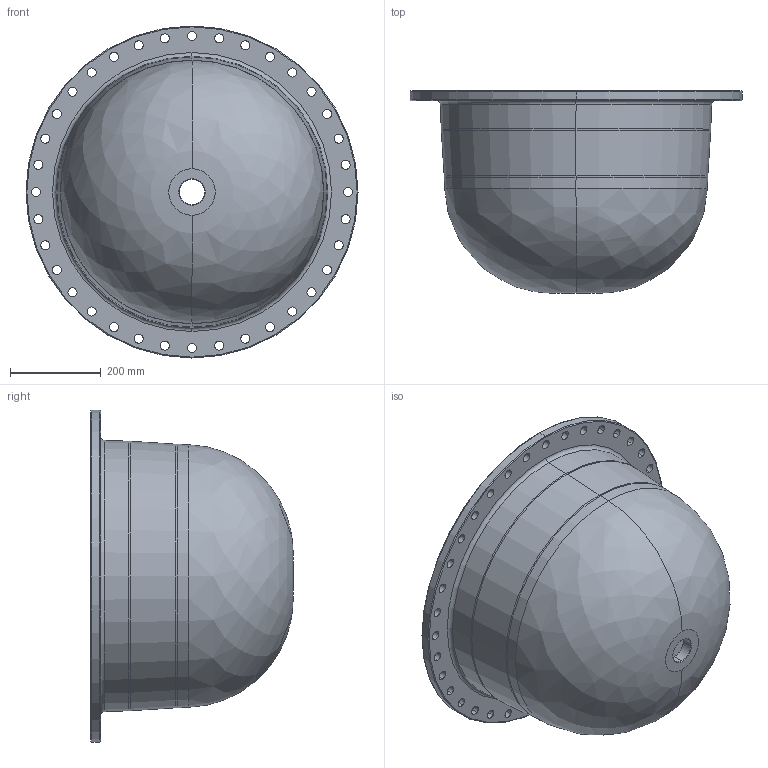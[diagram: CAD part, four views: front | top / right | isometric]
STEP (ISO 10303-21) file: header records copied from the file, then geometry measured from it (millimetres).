
FILE_DESCRIPTION(('CATIA V5 STEP Exchange','CAx-IF Rec.Pracs.--- Composite Materials ---3.4---2017-06-13'),'2;1');
FILE_NAME('C:\Users\PM610867\AppData\Local\ST-WORK_R32_PROD\Liasse-PDF\IEM_PEPSI_CEG_DEF_K_1229_232-DOME-A.stp','2025-02-14T10:16:04+00:00',('none'),('none'),'CATIA Version 5-6 Release 2022 SP2','CATIA V5 STEP AP203 v2','none');
FILE_SCHEMA(('CONFIG_CONTROL_DESIGN'));
Length unit declared in the file: millimetre
Products named in the file (1): IEM PEPSI CEG DEF K 1229 232
Bounding box: 732 x 446.4 x 732 mm (x, y, z)
Volume: 18683567 mm3; surface area: 1975004.1 mm2
Topology: 1 solids, 1 shells, 110 faces, 292 edges, 186 vertices
Faces by surface type: cylinder 76, torus 12, cone 12, revolution 6, plane 4
Entity records: 3317 total; most frequent: CARTESIAN_POINT 618, ORIENTED_EDGE 584, DIRECTION 405, EDGE_CURVE 292, AXIS2_PLACEMENT_3D 260, CIRCLE 204, EDGE_LOOP 186, VERTEX_POINT 186
